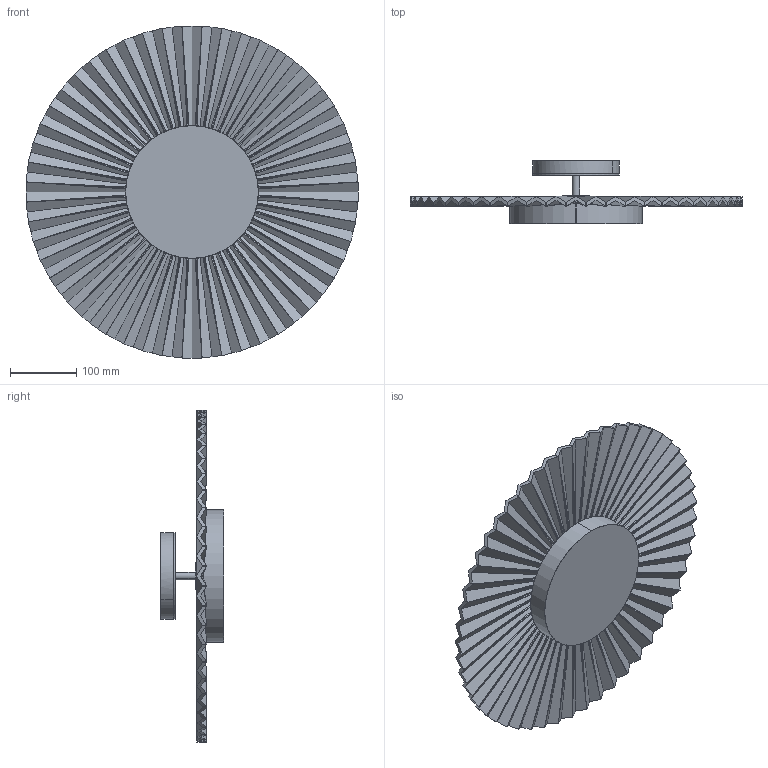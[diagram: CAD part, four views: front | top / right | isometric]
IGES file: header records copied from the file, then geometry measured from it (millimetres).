
Start section: SolidWorks IGES file using analytic representation for surfaces
Global section: file name: C:\Users\adrian\Desktop\MODELADOS USA\OSION\AU1132-50-LED_OSION.IGS; native system: SolidWorks 2023; preprocessor: SolidWorks 2023; author: adrian; date: 260605.091652; units: inch
Bounding box: 500 x 95.97 x 500 mm (x, y, z)
Surface area: 647415.6 mm2 (no closed solid volume)
Topology: 0 solids, 0 shells, 756 faces, 4680 edges, 4628 vertices
Faces by surface type: bspline 754, revolution 2
